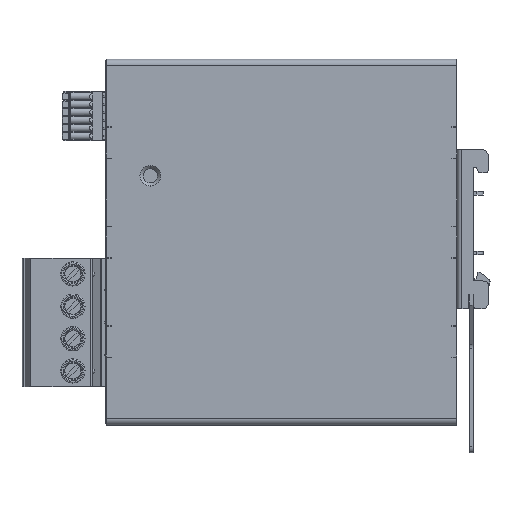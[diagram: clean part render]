
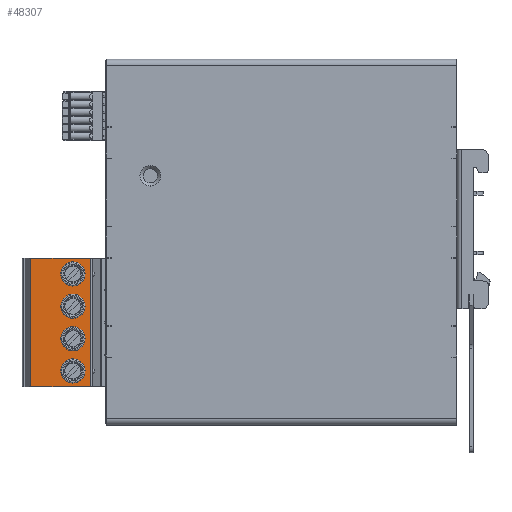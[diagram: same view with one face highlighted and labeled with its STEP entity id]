
A CAD part, front view. The second image highlights one B-rep face of the part: STEP entity #48307.
In plain terms, the highlighted planar face has unit normal (0, -1, 0).
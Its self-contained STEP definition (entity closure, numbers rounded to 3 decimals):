
#1015 = AXIS2_PLACEMENT_3D ( 'NONE', #11961, #63918, #83777 ) ;
#1200 = DIRECTION ( 'NONE',  ( 0., 1., 0. ) ) ;
#1622 = VERTEX_POINT ( 'NONE', #61763 ) ;
#2272 = CIRCLE ( 'NONE', #75053, 3.8 ) ;
#3162 = CARTESIAN_POINT ( 'NONE',  ( -65.56, -11.7, 36.84 ) ) ;
#4470 = DIRECTION ( 'NONE',  ( 0., 0., -1. ) ) ;
#4825 = ORIENTED_EDGE ( 'NONE', *, *, #15021, .T. ) ;
#6947 = CARTESIAN_POINT ( 'NONE',  ( -73.431, -11.7, 52. ) ) ;
#7201 = EDGE_CURVE ( 'NONE', #76235, #1622, #2272, .T. ) ;
#8810 = CARTESIAN_POINT ( 'NONE',  ( -65.56, -11.7, 30.48 ) ) ;
#9895 = CARTESIAN_POINT ( 'NONE',  ( -65.56, -11.7, 12.72 ) ) ;
#10436 = EDGE_CURVE ( 'NONE', #70077, #12705, #53312, .T. ) ;
#10533 = ORIENTED_EDGE ( 'NONE', *, *, #69391, .T. ) ;
#11961 = CARTESIAN_POINT ( 'NONE',  ( -91.069, -11.7, 60.915 ) ) ;
#12223 = ORIENTED_EDGE ( 'NONE', *, *, #23704, .F. ) ;
#12705 = VERTEX_POINT ( 'NONE', #31913 ) ;
#12823 = LINE ( 'NONE', #6947, #39243 ) ;
#12928 = DIRECTION ( 'NONE',  ( 1., 0., 0. ) ) ;
#13459 = VERTEX_POINT ( 'NONE', #8810 ) ;
#13802 = AXIS2_PLACEMENT_3D ( 'NONE', #36554, #24646, #4470 ) ;
#14220 = CARTESIAN_POINT ( 'NONE',  ( -65.56, -11.7, 26.68 ) ) ;
#15021 = EDGE_CURVE ( 'NONE', #12705, #70077, #62678, .T. ) ;
#15366 = CARTESIAN_POINT ( 'NONE',  ( -60.06, -11.7, 60.915 ) ) ;
#18088 = EDGE_CURVE ( 'NONE', #78172, #77063, #82125, .T. ) ;
#18227 = FACE_BOUND ( 'NONE', #37919, .T. ) ;
#18385 = VECTOR ( 'NONE', #46873, 1000. ) ;
#18650 = VERTEX_POINT ( 'NONE', #29731 ) ;
#18823 = DIRECTION ( 'NONE',  ( 0., 1., 0. ) ) ;
#19919 = EDGE_CURVE ( 'NONE', #67865, #42774, #74406, .T. ) ;
#21313 = DIRECTION ( 'NONE',  ( 0., 0., -1. ) ) ;
#22168 = EDGE_LOOP ( 'NONE', ( #32073, #68844 ) ) ;
#22346 = FACE_OUTER_BOUND ( 'NONE', #51782, .T. ) ;
#23332 = FACE_BOUND ( 'NONE', #70440, .T. ) ;
#23379 = AXIS2_PLACEMENT_3D ( 'NONE', #59112, #32435, #40599 ) ;
#23704 = EDGE_CURVE ( 'NONE', #18650, #55822, #12823, .T. ) ;
#24646 = DIRECTION ( 'NONE',  ( 0., 1., 0. ) ) ;
#26223 = ORIENTED_EDGE ( 'NONE', *, *, #45247, .T. ) ;
#26245 = CARTESIAN_POINT ( 'NONE',  ( -65.56, -11.7, 47. ) ) ;
#27073 = ORIENTED_EDGE ( 'NONE', *, *, #18088, .F. ) ;
#27081 = CARTESIAN_POINT ( 'NONE',  ( -65.932, -11.7, 11.52 ) ) ;
#28239 = AXIS2_PLACEMENT_3D ( 'NONE', #3162, #60543, #35003 ) ;
#28384 = ORIENTED_EDGE ( 'NONE', *, *, #63530, .T. ) ;
#29731 = CARTESIAN_POINT ( 'NONE',  ( -78.81, -11.7, 52. ) ) ;
#31913 = CARTESIAN_POINT ( 'NONE',  ( -65.56, -11.7, 33.04 ) ) ;
#31930 = DIRECTION ( 'NONE',  ( 0., 0., -1. ) ) ;
#32073 = ORIENTED_EDGE ( 'NONE', *, *, #19919, .T. ) ;
#32435 = DIRECTION ( 'NONE',  ( 0., 1., 0. ) ) ;
#34301 = ORIENTED_EDGE ( 'NONE', *, *, #10436, .T. ) ;
#35003 = DIRECTION ( 'NONE',  ( 0., 0., -1. ) ) ;
#35507 = DIRECTION ( 'NONE',  ( 0., 0., -1. ) ) ;
#36554 = CARTESIAN_POINT ( 'NONE',  ( -65.56, -11.7, 26.68 ) ) ;
#36637 = CARTESIAN_POINT ( 'NONE',  ( -78.81, -11.7, 60.915 ) ) ;
#37919 = EDGE_LOOP ( 'NONE', ( #38980, #83210 ) ) ;
#38273 = CARTESIAN_POINT ( 'NONE',  ( -60.06, -11.7, 52. ) ) ;
#38980 = ORIENTED_EDGE ( 'NONE', *, *, #67616, .T. ) ;
#39243 = VECTOR ( 'NONE', #12928, 1000. ) ;
#39265 = DIRECTION ( 'NONE',  ( 0., 0., -1. ) ) ;
#40428 = CARTESIAN_POINT ( 'NONE',  ( -78.81, -11.7, 11.52 ) ) ;
#40599 = DIRECTION ( 'NONE',  ( 0., 0., -1. ) ) ;
#41362 = CIRCLE ( 'NONE', #13802, 3.8 ) ;
#41406 = DIRECTION ( 'NONE',  ( 0., 0., -1. ) ) ;
#42774 = VERTEX_POINT ( 'NONE', #51017 ) ;
#43644 = FACE_BOUND ( 'NONE', #54866, .T. ) ;
#44326 = LINE ( 'NONE', #36637, #49449 ) ;
#45247 = EDGE_CURVE ( 'NONE', #13459, #52492, #41362, .T. ) ;
#45656 = ORIENTED_EDGE ( 'NONE', *, *, #53077, .T. ) ;
#45959 = CARTESIAN_POINT ( 'NONE',  ( -65.56, -11.7, 22.88 ) ) ;
#46311 = DIRECTION ( 'NONE',  ( -1., 0., 0. ) ) ;
#46873 = DIRECTION ( 'NONE',  ( 0., 0., 1. ) ) ;
#47592 = VECTOR ( 'NONE', #46311, 1000. ) ;
#48307 = ADVANCED_FACE ( 'NONE', ( #43644, #18227, #23332, #22346, #48679 ), #71237, .T. ) ;
#48679 = FACE_BOUND ( 'NONE', #22168, .T. ) ;
#48772 = CARTESIAN_POINT ( 'NONE',  ( -65.56, -11.7, 50.8 ) ) ;
#49449 = VECTOR ( 'NONE', #35507, 1000. ) ;
#51017 = CARTESIAN_POINT ( 'NONE',  ( -65.56, -11.7, 20.32 ) ) ;
#51782 = EDGE_LOOP ( 'NONE', ( #28384, #27073, #45656, #12223 ) ) ;
#51978 = AXIS2_PLACEMENT_3D ( 'NONE', #26245, #58043, #39265 ) ;
#52492 = VERTEX_POINT ( 'NONE', #45959 ) ;
#52645 = CARTESIAN_POINT ( 'NONE',  ( -65.56, -11.7, 47. ) ) ;
#52901 = DIRECTION ( 'NONE',  ( 0., 1., 0. ) ) ;
#53077 = EDGE_CURVE ( 'NONE', #78172, #55822, #78342, .T. ) ;
#53312 = CIRCLE ( 'NONE', #28239, 3.8 ) ;
#53535 = AXIS2_PLACEMENT_3D ( 'NONE', #73950, #80847, #41406 ) ;
#54785 = CIRCLE ( 'NONE', #79781, 3.8 ) ;
#54866 = EDGE_LOOP ( 'NONE', ( #10533, #26223 ) ) ;
#55822 = VERTEX_POINT ( 'NONE', #38273 ) ;
#58043 = DIRECTION ( 'NONE',  ( 0., 1., 0. ) ) ;
#59112 = CARTESIAN_POINT ( 'NONE',  ( -65.56, -11.7, 16.52 ) ) ;
#60543 = DIRECTION ( 'NONE',  ( 0., 1., 0. ) ) ;
#61763 = CARTESIAN_POINT ( 'NONE',  ( -65.56, -11.7, 43.2 ) ) ;
#62678 = CIRCLE ( 'NONE', #53535, 3.8 ) ;
#63530 = EDGE_CURVE ( 'NONE', #18650, #77063, #44326, .T. ) ;
#63918 = DIRECTION ( 'NONE',  ( 0., -1., 0. ) ) ;
#64066 = CARTESIAN_POINT ( 'NONE',  ( -60.06, -11.7, 11.52 ) ) ;
#67616 = EDGE_CURVE ( 'NONE', #1622, #76235, #80551, .T. ) ;
#67865 = VERTEX_POINT ( 'NONE', #9895 ) ;
#68844 = ORIENTED_EDGE ( 'NONE', *, *, #83447, .T. ) ;
#69391 = EDGE_CURVE ( 'NONE', #52492, #13459, #54785, .T. ) ;
#70077 = VERTEX_POINT ( 'NONE', #77811 ) ;
#70440 = EDGE_LOOP ( 'NONE', ( #4825, #34301 ) ) ;
#70971 = CARTESIAN_POINT ( 'NONE',  ( -65.56, -11.7, 16.52 ) ) ;
#71237 = PLANE ( 'NONE',  #1015 ) ;
#71546 = DIRECTION ( 'NONE',  ( 0., 0., -1. ) ) ;
#73950 = CARTESIAN_POINT ( 'NONE',  ( -65.56, -11.7, 36.84 ) ) ;
#74406 = CIRCLE ( 'NONE', #23379, 3.8 ) ;
#75053 = AXIS2_PLACEMENT_3D ( 'NONE', #52645, #52901, #71546 ) ;
#76235 = VERTEX_POINT ( 'NONE', #48772 ) ;
#77063 = VERTEX_POINT ( 'NONE', #40428 ) ;
#77811 = CARTESIAN_POINT ( 'NONE',  ( -65.56, -11.7, 40.64 ) ) ;
#78172 = VERTEX_POINT ( 'NONE', #64066 ) ;
#78342 = LINE ( 'NONE', #15366, #18385 ) ;
#79781 = AXIS2_PLACEMENT_3D ( 'NONE', #14220, #1200, #21313 ) ;
#80551 = CIRCLE ( 'NONE', #51978, 3.8 ) ;
#80847 = DIRECTION ( 'NONE',  ( 0., 1., 0. ) ) ;
#81685 = CIRCLE ( 'NONE', #82996, 3.8 ) ;
#82125 = LINE ( 'NONE', #27081, #47592 ) ;
#82996 = AXIS2_PLACEMENT_3D ( 'NONE', #70971, #18823, #31930 ) ;
#83210 = ORIENTED_EDGE ( 'NONE', *, *, #7201, .T. ) ;
#83447 = EDGE_CURVE ( 'NONE', #42774, #67865, #81685, .T. ) ;
#83777 = DIRECTION ( 'NONE',  ( 0., 0., -1. ) ) ;
